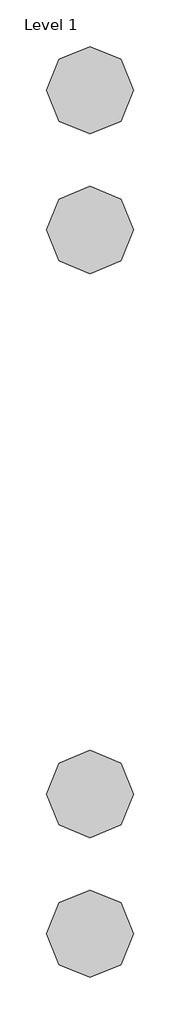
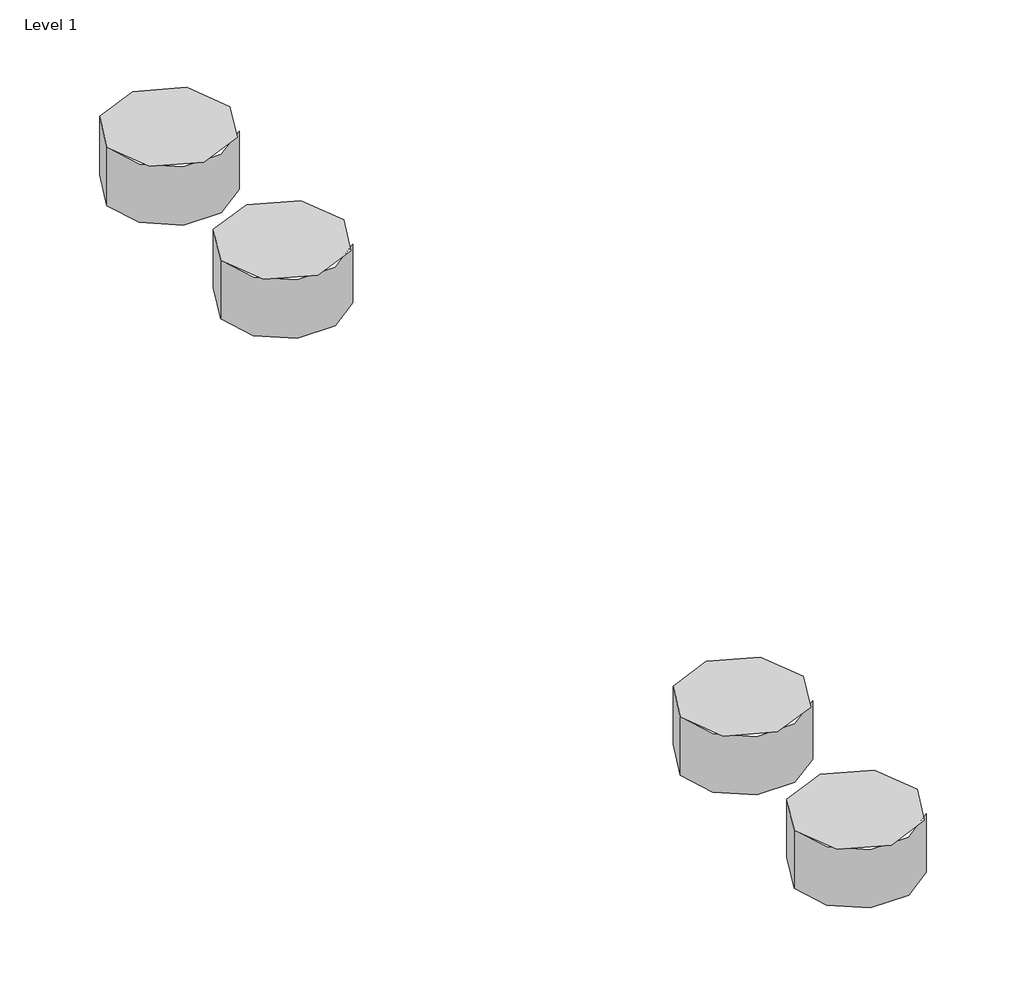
# One storey, incomplete: 4 proxies.
"""IFC4 building model written with IfcOpenShell, lengths in millimetres."""

from ifc_helpers import new_model, si_unit, origin, place, context, project, spatial, transform, mapped, element, save
from components import materialmodel_materialmodel_02e69005

model = new_model("IFC4")

# Units and contexts
model_context = context("Model", 3, world=origin())
ifc_project = project(units=[si_unit("LENGTHUNIT", "METRE", prefix="MILLI")], contexts=[model_context])

# Site, building, storey
site = spatial("IfcSite", under=ifc_project)
building = spatial("IfcBuilding", under=site)
storey = spatial("IfcBuildingStorey", under=building, Name="Level 1", Elevation=0.0)

# Proxies
placement = place(None, origin())
materialmodel_materialmodel_shape = materialmodel_materialmodel_02e69005(model_context)
element("IfcBuildingElementProxy", 1, Name="MaterialModel : MaterialModel", ObjectType="MaterialModel : MaterialModel", at=placement, inside=storey, context=model_context, shape_type="MappedRepresentation", body=[
    mapped(materialmodel_materialmodel_shape, transform((-5192.1657896, 4143.699322, 0.0), x_axis=(1.0, 0.0, 0.0), y_axis=(0.0, 1.0, 0.0), z_axis=(0.0, 0.0, 1.0))),
])
element("IfcBuildingElementProxy", 2, Name="MaterialModel : MaterialModel", ObjectType="MaterialModel : MaterialModel", at=placement, inside=storey, context=model_context, shape_type="MappedRepresentation", body=[
    mapped(materialmodel_materialmodel_shape, transform((-5192.1657896, 3983.699322, 0.0), x_axis=(1.0, 0.0, 0.0), y_axis=(0.0, 1.0, 0.0), z_axis=(0.0, 0.0, 1.0))),
])
element("IfcBuildingElementProxy", 3, Name="MaterialModel : MaterialModel", ObjectType="MaterialModel : MaterialModel", at=placement, inside=storey, context=model_context, shape_type="MappedRepresentation", body=[
    mapped(materialmodel_materialmodel_shape, transform((-5192.1657896, 4949.5653718, 0.0), x_axis=(1.0, 0.0, 0.0), y_axis=(0.0, 1.0, 0.0), z_axis=(0.0, 0.0, 1.0))),
])
element("IfcBuildingElementProxy", 4, Name="MaterialModel : MaterialModel", ObjectType="MaterialModel : MaterialModel", at=placement, inside=storey, context=model_context, shape_type="MappedRepresentation", body=[
    mapped(materialmodel_materialmodel_shape, transform((-5192.1657896, 4789.5653718, 0.0), x_axis=(1.0, 0.0, 0.0), y_axis=(0.0, 1.0, 0.0), z_axis=(0.0, 0.0, 1.0))),
])

save(model, "model.ifc")
